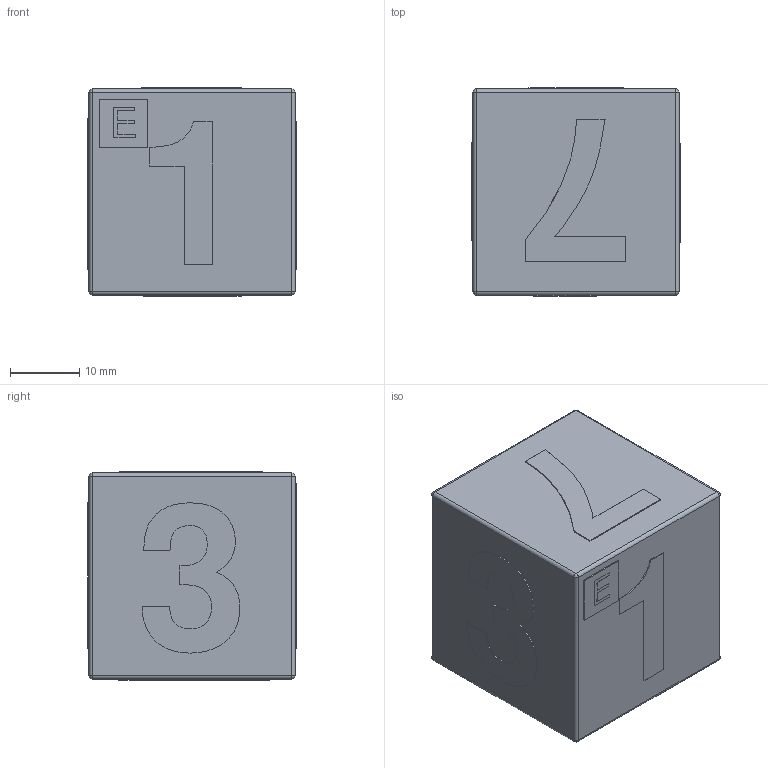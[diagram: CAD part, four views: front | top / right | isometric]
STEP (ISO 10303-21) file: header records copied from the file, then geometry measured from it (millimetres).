
FILE_DESCRIPTION(('Open CASCADE Model'),'2;1');
FILE_NAME('Open CASCADE Shape Model','2025-09-14T20:47:12',('Author'),( 'Open CASCADE'),'Open CASCADE STEP processor 7.8','Open CASCADE 7.8' ,'Unknown');
FILE_SCHEMA(('AUTOMOTIVE_DESIGN { 1 0 10303 214 1 1 1 1 }'));
Length unit declared in the file: millimetre
Products named in the file (20): 9bca0964-91a3-11f0-88d2-1c1b0deae66b; 9bca0b1c-91a3-11f0-88d2-1c1b0deae66b; 9bca0b1c-91a3-11f0-88d2-1c1b0deae66b_part; 9bcd41b0-91a3-11f0-88d2-1c1b0deae66b; 9bcd41b0-91a3-11f0-88d2-1c1b0deae66b_part; 9bcfe5a0-91a3-11f0-88d2-1c1b0deae66b; 9bcfe5a0-91a3-11f0-88d2-1c1b0deae66b_part; 9bd16448-91a3-11f0-88d2-1c1b0deae66b; 9bd16448-91a3-11f0-88d2-1c1b0deae66b_part; 9bd30d84-91a3-11f0-88d2-1c1b0deae66b; 9bd30d84-91a3-11f0-88d2-1c1b0deae66b_part; 9bd4403c-91a3-11f0-88d2-1c1b0deae66b; 9bd4403c-91a3-11f0-88d2-1c1b0deae66b_part; 9bd60c5a-91a3-11f0-88d2-1c1b0deae66b; 9bd60c5a-91a3-11f0-88d2-1c1b0deae66b_part; 9bd9969a-91a3-11f0-88d2-1c1b0deae66b; 9bd9969a-91a3-11f0-88d2-1c1b0deae66b_part; 9bd997d0-91a3-11f0-88d2-1c1b0deae66b; 9bd997d0-91a3-11f0-88d2-1c1b0deae66b_part
Assembly tree (19 placements, depth 4):
  9bca0964-91a3-11f0-88d2-1c1b0deae66b
    9bca0964-91a3-11f0-88d2-1c1b0deae66b
      9bca0b1c-91a3-11f0-88d2-1c1b0deae66b
        9bca0b1c-91a3-11f0-88d2-1c1b0deae66b_part
      9bcd41b0-91a3-11f0-88d2-1c1b0deae66b
        9bcd41b0-91a3-11f0-88d2-1c1b0deae66b_part
      9bcfe5a0-91a3-11f0-88d2-1c1b0deae66b
        9bcfe5a0-91a3-11f0-88d2-1c1b0deae66b_part
      9bd16448-91a3-11f0-88d2-1c1b0deae66b
        9bd16448-91a3-11f0-88d2-1c1b0deae66b_part
      9bd30d84-91a3-11f0-88d2-1c1b0deae66b
        9bd30d84-91a3-11f0-88d2-1c1b0deae66b_part
      9bd4403c-91a3-11f0-88d2-1c1b0deae66b
        9bd4403c-91a3-11f0-88d2-1c1b0deae66b_part
      9bd60c5a-91a3-11f0-88d2-1c1b0deae66b
        9bd60c5a-91a3-11f0-88d2-1c1b0deae66b_part
      9bd9969a-91a3-11f0-88d2-1c1b0deae66b
        9bd9969a-91a3-11f0-88d2-1c1b0deae66b_part
      9bd997d0-91a3-11f0-88d2-1c1b0deae66b
        9bd997d0-91a3-11f0-88d2-1c1b0deae66b_part
Bounding box: 30 x 30 x 30 mm (x, y, z)
Volume: 26320.1 mm3; surface area: 7186.8 mm2
Topology: 9 solids, 9 shells, 197 faces, 521 edges, 334 vertices
Faces by surface type: plane 92, extrusion 85, cylinder 12, sphere 8
Entity records: 13125 total; most frequent: CARTESIAN_POINT 2972, DIRECTION 1540, VECTOR 1228, LINE 1143, ORIENTED_EDGE 1026, PCURVE 1026, DEFINITIONAL_REPRESENTATION 1026, EDGE_CURVE 513
